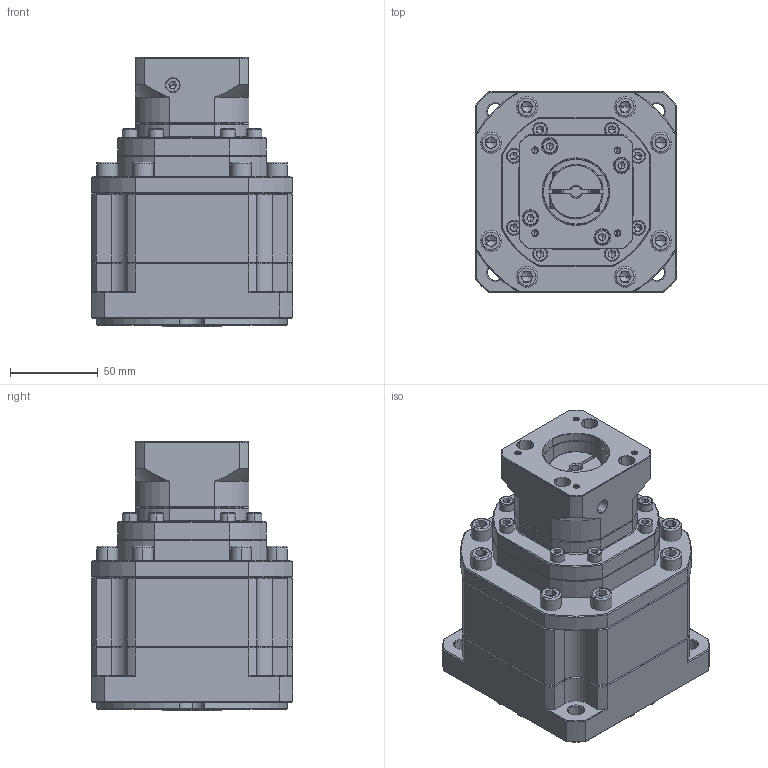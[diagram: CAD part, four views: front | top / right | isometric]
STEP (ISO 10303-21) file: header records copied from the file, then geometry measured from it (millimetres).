
FILE_DESCRIPTION (( 'STEP AP214' ), '1' );
FILE_NAME ('ZB115A-K25-L3-P2-6.35-38.1-47.14X47.14-M4.step', '2023-08-26T10:35:07', ( '' ), ( '' ), 'SwSTEP 2.0', 'SolidWorks 2016', '' );
FILE_SCHEMA (( 'AUTOMOTIVE_DESIGN' ));
Length unit declared in the file: millimetre
Products named in the file (1): ZB115A-K25-L3-P2-6.35-38.1-47.14X47.14-M4
Bounding box: 115 x 115 x 154 mm (x, y, z)
Volume: 1255900.5 mm3; surface area: 119770.3 mm2
Topology: 7 solids, 7 shells, 2494 faces, 6572 edges, 4192 vertices
Faces by surface type: plane 1299, bspline 434, cylinder 401, cone 338, torus 22
Entity records: 124769 total; most frequent: CARTESIAN_POINT 39011, ORIENTED_EDGE 13024, DIRECTION 10557, EDGE_CURVE 6512, VECTOR 4205, LINE 4205, VERTEX_POINT 4192, AXIS2_PLACEMENT_3D 3176
